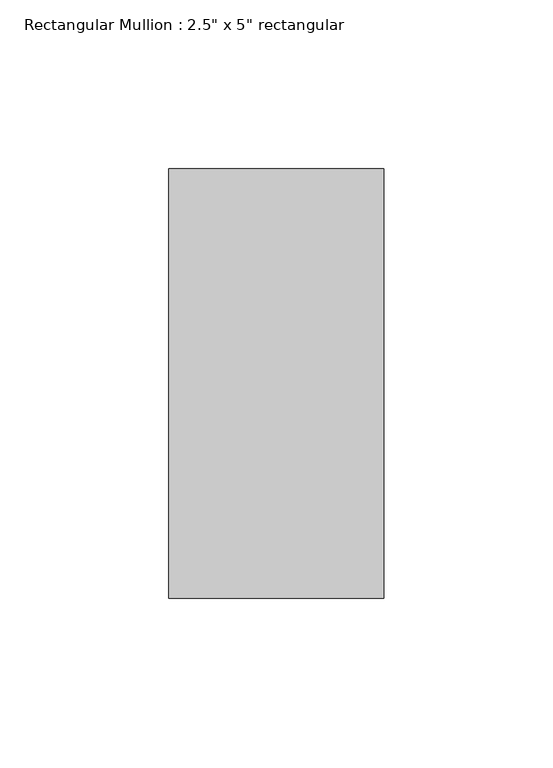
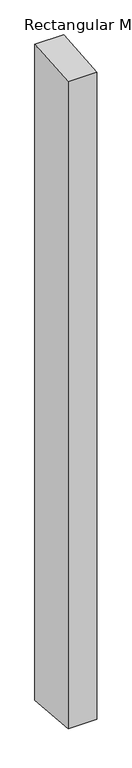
"""IFC4 building model written with IfcOpenShell, lengths in millimetres: member geometry."""

from ifc_helpers import new_model, si_unit, origin, place, context, project, spatial, faceted_brep, source, transform, mapped, element, save


def member_de41bbd8(model_context):
    return source(origin(), model_context, "Body", "Brep", [
        faceted_brep([(-63.5, 63.5, 5.1969959), (0.0, 63.5, 5.3089563), (0.0, 63.5, -1529.3089563), (-63.5, 63.5, -1529.1969959), (-63.5, -63.5, -5.4209168), (-63.5, -63.5, -1518.5790832), (0.0, -63.5, -5.3089563), (0.0, -63.5, -1518.6910437)], [[[0, 1, 2, 3]], [[4, 0, 3, 5]], [[6, 4, 5, 7]], [[1, 6, 7, 2]], [[1, 0, 4, 6]], [[2, 7, 5, 3]]]),
    ])


if __name__ == "__main__":
    model = new_model("IFC4")
    model_context = context("Model", 3, world=origin())
    ifc_project = project(units=[si_unit("LENGTHUNIT", "METRE", prefix="MILLI")], contexts=[model_context])
    site = spatial("IfcSite", under=ifc_project)
    building = spatial("IfcBuilding", under=site)
    placement = place(None, origin())
    member_shape = member_de41bbd8(model_context)
    element("IfcMember", 1, ObjectType="Rectangular Mullion : 2.5\" x 5\" rectangular", at=placement, inside=building, context=model_context, shape_type="MappedRepresentation", body=[
        mapped(member_shape, transform((0.0, 0.0, 0.0), x_axis=(1.0, 0.0, 0.0), y_axis=(0.0, 1.0, 0.0), z_axis=(0.0, 0.0, 1.0))),
    ])
    save(model, "model.ifc")
